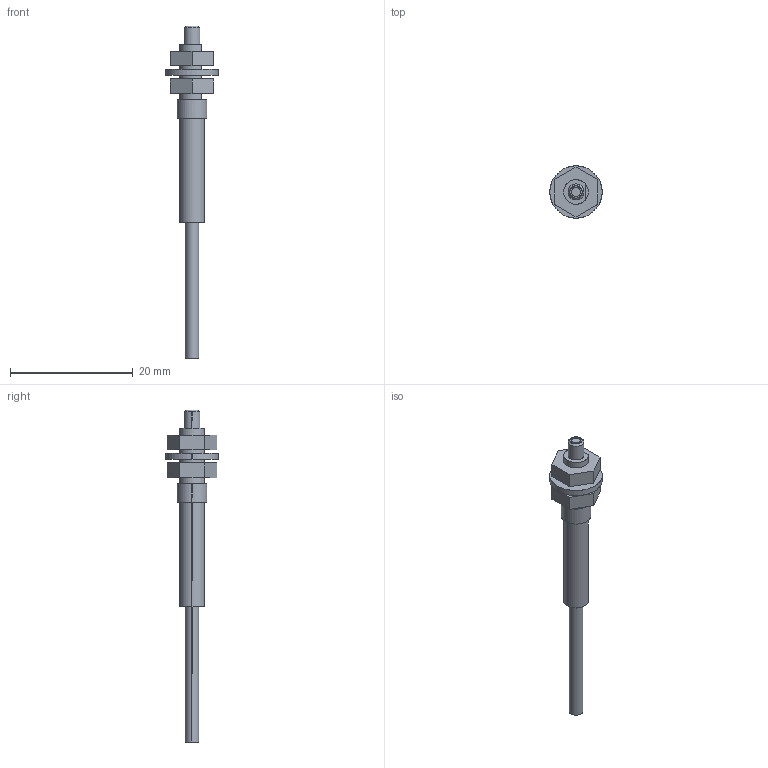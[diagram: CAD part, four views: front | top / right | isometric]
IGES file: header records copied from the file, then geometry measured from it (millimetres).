
Start section: SolidWorks IGES FILE using analytic representation for surfaces
Global section: file name: \\intra-srv04\開発データ\CAD_Data\CAD委員会\3D電子ｶﾀﾛｸﾞ\製品カタログ（新）\0_IGES\FT-B8.IGS,41HSolidWorks 2004; native system: by SolidWorks Corporation; preprocessor: Version 5.3; author: yk0651; date: 050908.143833; units: millimetre
Bounding box: 8.5 x 8.5 x 54 mm (x, y, z)
Surface area: 1005.2 mm2 (no closed solid volume)
Topology: 0 solids, 0 shells, 47 faces, 738 edges, 738 vertices
Faces by surface type: bspline 26, revolution 21
